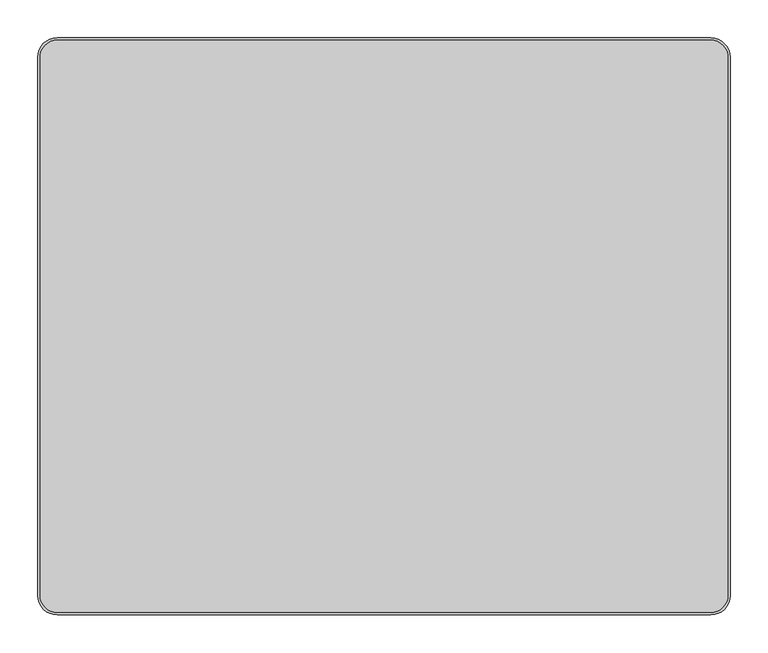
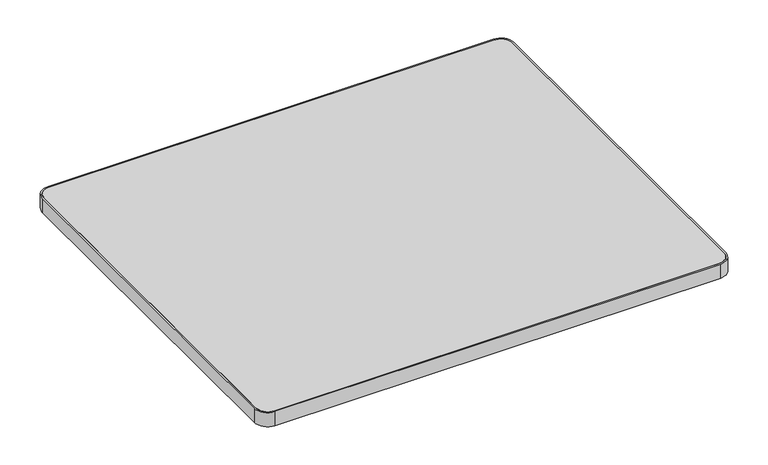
"""IFC4 building model written with IfcOpenShell, lengths in millimetres: furniture geometry, Steelcase - Groupwork - Table - Top - Rectangular : 30D x 36W - HPL."""

import ifcopenshell
import ifcopenshell.guid

model = None  # the IFC model being written
_history = None  # IfcOwnerHistory: only IFC2X3 demands one
_inside = {}  # id of a spatial element -> (the spatial element, [elements in it])
_under = {}  # id of a project, library or spatial element -> (it, [spatial elements below it])
_declared = {}  # id of a project -> (the project, [libraries it declares])
_typed = {}  # id of a type object -> (the type object, [elements of that type])
_made_of = {}  # id of a material, layer set ... -> (it, [elements and type objects made of it])


def new_model(schema):
    """Start an empty IFC model of exactly this schema.

    Asked for "IFC4X3", IfcOpenShell would pick the latest addendum, in which some entities
    have other attributes; the version numbers below select the first issue.
    IFC2X3 requires an IfcOwnerHistory on every rooted entity: one is made here for all.
    """
    global model, _history
    if schema == "IFC4X3":
        model = ifcopenshell.file(schema_version=(4, 3, 0, 0))
    else:
        model = ifcopenshell.file(schema=schema)
    _inside.clear()
    _under.clear()
    _declared.clear()
    _typed.clear()
    _made_of.clear()
    _history = None
    if model.schema == "IFC2X3":
        org = make("IfcOrganization", Name="unknown")
        user = make(
            "IfcPersonAndOrganization",
            ThePerson=make("IfcPerson", FamilyName="unknown"),
            TheOrganization=org,
        )
        app = make(
            "IfcApplication",
            ApplicationDeveloper=org,
            Version="unknown",
            ApplicationFullName="unknown",
            ApplicationIdentifier="unknown",
        )
        _history = make(
            "IfcOwnerHistory",
            OwningUser=user,
            OwningApplication=app,
            ChangeAction="ADDED",
            CreationDate=0,
        )
    return model


def make(cls, **values):
    """One entity of the class cls with the attributes given. An attribute that is None is left unset."""
    return model.create_entity(
        cls, **{name: value for name, value in values.items() if value is not None}
    )


def rooted(cls, **values):
    """An entity with a GlobalId (a new one), such as an element, a storey or a relation."""
    return make(cls, GlobalId=ifcopenshell.guid.new(), OwnerHistory=_history, **values)


def si_unit(unit_type, name, prefix=None):
    """IfcSIUnit, for example si_unit("LENGTHUNIT", "METRE", prefix="MILLI")."""
    return make("IfcSIUnit", UnitType=unit_type, Prefix=prefix, Name=name)


def assignment(units):
    """IfcUnitAssignment: the units of a project."""
    return None if units is None else make("IfcUnitAssignment", Units=units)


def point(xyz):
    """IfcCartesianPoint."""
    return None if xyz is None else make("IfcCartesianPoint", Coordinates=xyz)


def direction(xyz):
    """IfcDirection."""
    return None if xyz is None else make("IfcDirection", DirectionRatios=xyz)


def frame(location, z_axis=None, x_axis=None):
    """IfcAxis2Placement3D, a coordinate frame: its origin and axes. An axis left out is left unset."""
    return make(
        "IfcAxis2Placement3D",
        Location=point(location),
        Axis=direction(z_axis),
        RefDirection=direction(x_axis),
    )


def frame_2d(location, x_axis=None):
    """IfcAxis2Placement2D, a coordinate frame in the plane: its origin and x axis."""
    return make(
        "IfcAxis2Placement2D", Location=point(location), RefDirection=direction(x_axis)
    )


def origin():
    """The frame at (0, 0, 0) with its axes left unset."""
    return frame((0.0, 0.0, 0.0))


def place(relative_to, where):
    """IfcLocalPlacement: puts the frame where relative to a parent placement (None: the world)."""
    return make(
        "IfcLocalPlacement", PlacementRelTo=relative_to, RelativePlacement=where
    )


def context(
    kind, dimensions, precision=None, world=None, true_north=None, identifier=None
):
    """IfcGeometricRepresentationContext, for example the 3D "Model" context."""
    return make(
        "IfcGeometricRepresentationContext",
        ContextIdentifier=identifier,
        ContextType=kind,
        CoordinateSpaceDimension=dimensions,
        Precision=precision,
        WorldCoordinateSystem=world,
        TrueNorth=true_north,
    )


def project(units=None, contexts=None):
    """IfcProject with its units and contexts."""
    return rooted(
        "IfcProject",
        Name="project",
        RepresentationContexts=contexts,
        UnitsInContext=assignment(units),
    )


def spatial(cls, under=None, at=None, **own):
    """A site, building, storey or space (cls), placed at a placement, below another one or the project."""
    s = rooted(cls, ObjectPlacement=at, **own)
    if under is not None:
        _under.setdefault(under.id(), (under, []))[1].append(s)
    return s


def polyline(points):
    """IfcPolyline through the points."""
    return make("IfcPolyline", Points=[point(p) for p in points])


def circle_curve(where, radius):
    """IfcCircle in the frame where."""
    return make("IfcCircle", Position=where, Radius=radius)


def trimmed(basis, trim1, trim2, sense, master):
    """IfcTrimmedCurve: the piece of a basis curve between two trims."""
    return make(
        "IfcTrimmedCurve",
        BasisCurve=basis,
        Trim1=trim1,
        Trim2=trim2,
        SenseAgreement=sense,
        MasterRepresentation=master,
    )


def segment(curve, same_sense, transition):
    """IfcCompositeCurveSegment."""
    return make(
        "IfcCompositeCurveSegment",
        Transition=transition,
        SameSense=same_sense,
        ParentCurve=curve,
    )


def composite_curve(segments, self_intersect=None):
    """IfcCompositeCurve: segments joined end to end."""
    return make("IfcCompositeCurve", Segments=segments, SelfIntersect=self_intersect)


def outline(outer, holes=None, kind="AREA"):
    """IfcArbitraryClosedProfileDef: a profile drawn as a closed curve; with holes, ...WithVoids."""
    if holes is None:
        return make("IfcArbitraryClosedProfileDef", ProfileType=kind, OuterCurve=outer)
    return make(
        "IfcArbitraryProfileDefWithVoids",
        ProfileType=kind,
        OuterCurve=outer,
        InnerCurves=holes,
    )


def extrude(swept, where, along, depth):
    """IfcExtrudedAreaSolid: the profile swept, set in the frame where, extruded along a direction by depth."""
    return make(
        "IfcExtrudedAreaSolid",
        SweptArea=swept,
        Position=where,
        ExtrudedDirection=direction(along),
        Depth=depth,
    )


def shape(context_of_items, identifier, shape_type, items):
    """IfcShapeRepresentation: the items that make up one representation, for example the "Body"."""
    return make(
        "IfcShapeRepresentation",
        ContextOfItems=context_of_items,
        RepresentationIdentifier=identifier,
        RepresentationType=shape_type,
        Items=items,
    )


def source(mapping_origin, context_of_items, identifier, shape_type, items):
    """IfcRepresentationMap: a shape defined once, which mapped items show again and again."""
    return make(
        "IfcRepresentationMap",
        MappingOrigin=mapping_origin,
        MappedRepresentation=shape(context_of_items, identifier, shape_type, items),
    )


def transform(
    local_origin,
    x_axis=None,
    y_axis=None,
    z_axis=None,
    scale=None,
    scale2=None,
    scale3=None,
    uniform=True,
):
    """IfcCartesianTransformationOperator3D, or its non-uniform kind. x_axis, y_axis, z_axis: its Axis1, 2, 3."""
    if uniform:
        return make(
            "IfcCartesianTransformationOperator3D",
            Axis1=direction(x_axis),
            Axis2=direction(y_axis),
            LocalOrigin=point(local_origin),
            Scale=scale,
            Axis3=direction(z_axis),
        )
    return make(
        "IfcCartesianTransformationOperator3DnonUniform",
        Axis1=direction(x_axis),
        Axis2=direction(y_axis),
        LocalOrigin=point(local_origin),
        Scale=scale,
        Axis3=direction(z_axis),
        Scale2=scale2,
        Scale3=scale3,
    )


def mapped(mapping_source, mapping_target):
    """IfcMappedItem: shows the shape of a source again, moved by a transform."""
    return make(
        "IfcMappedItem", MappingSource=mapping_source, MappingTarget=mapping_target
    )


def made_of(thing, what):
    """Note that an element or type object is made of a material, layer set ...; save() writes the relation."""
    if what is not None:
        _made_of.setdefault(what.id(), (what, []))[1].append(thing)
    return thing


def element(
    cls,
    number,
    at=None,
    inside=None,
    cuts=None,
    type_object=None,
    material=None,
    context=None,
    identifier="Body",
    shape_type=None,
    held_by="IfcProductDefinitionShape",
    body=None,
    shapes=None,
    **own,
):
    """One element of the class cls, such as IfcWall. Its Tag is "e" and its number.

    at: its placement. inside: the storey or other place that contains it. cuts: it is an
    opening in that element (IfcRelVoidsElement). A single representation is given by context,
    identifier, shape_type and body (its items); several are given by shapes. held_by: the class
    of the entity that holds the representations. save() writes the other relations.
    """
    e = rooted(cls, Tag="e%d" % number, ObjectPlacement=at, **own)
    if body is not None:
        shapes = [shape(context, identifier, shape_type, body)]
    if shapes is not None:
        e.Representation = make(held_by, Representations=shapes)
    if inside is not None:
        _inside.setdefault(inside.id(), (inside, []))[1].append(e)
    if cuts is not None:
        rooted(
            "IfcRelVoidsElement", RelatingBuildingElement=cuts, RelatedOpeningElement=e
        )
    if type_object is not None:
        _typed.setdefault(type_object.id(), (type_object, []))[1].append(e)
    return made_of(e, material)


def aggregate(whole, parts):
    """IfcRelAggregates: a whole, such as a stair, and the parts it consists of."""
    return rooted("IfcRelAggregates", RelatingObject=whole, RelatedObjects=parts)


def save(model, path):
    """Write the relations noted so far, then the file.

    IfcRelAggregates (storeys below a building ...), IfcRelContainedInSpatialStructure (elements
    in a storey), IfcRelDefinesByType, IfcRelAssociatesMaterial and IfcRelDeclares: one each for
    every whole, place, type object, material and project.
    """
    for whole, parts in _under.values():
        aggregate(whole, parts)
    for where, things in _inside.values():
        rooted(
            "IfcRelContainedInSpatialStructure",
            RelatedElements=things,
            RelatingStructure=where,
        )
    for kind, things in _typed.values():
        rooted("IfcRelDefinesByType", RelatedObjects=things, RelatingType=kind)
    for what, things in _made_of.values():
        rooted("IfcRelAssociatesMaterial", RelatedObjects=things, RelatingMaterial=what)
    for by, libraries in _declared.values():
        rooted("IfcRelDeclares", RelatingContext=by, RelatedDefinitions=libraries)
    model.write(path)


def furniture_cd082a74(model_context):
    return source(origin(), model_context, "Body", "SweptSolid", [
        extrude(outline(composite_curve([segment(polyline([(-459.74, 378.0), (402.94, 378.0)]), True, "CONTINUOUS"), segment(trimmed(circle_curve(frame_2d((402.94, 355.14)), 22.86), [point((402.94, 378.0))], [point((425.8, 355.14))], False, "CARTESIAN"), True, "CONTINUOUS"), segment(polyline([(425.8, 355.14), (425.8, -355.14)]), True, "CONTINUOUS"), segment(trimmed(circle_curve(frame_2d((402.94, -355.14)), 22.86), [point((425.8, -355.14))], [point((402.94, -378.0))], False, "CARTESIAN"), True, "CONTINUOUS"), segment(polyline([(402.94, -378.0), (-459.74, -378.0)]), True, "CONTINUOUS"), segment(trimmed(circle_curve(frame_2d((-459.74, -355.14)), 22.86), [point((-459.74, -378.0))], [point((-482.6, -355.14))], False, "CARTESIAN"), True, "CONTINUOUS"), segment(polyline([(-482.6, -355.14), (-482.6, 355.14)]), True, "CONTINUOUS"), segment(trimmed(circle_curve(frame_2d((-459.74, 355.14)), 22.86), [point((-482.6, 355.14))], [point((-459.74, 378.0))], False, "CARTESIAN"), True, "CONTINUOUS")], self_intersect=False)), frame((0.0, 0.0, 694.944), z_axis=(0.0, 0.0, 1.0), x_axis=(1.0, 0.0, 0.0)), (0.0, 0.0, 1.0), 28.956),
        extrude(outline(composite_curve([segment(trimmed(circle_curve(frame_2d((403.3385373, 355.5385373)), 25.4614627), [point((403.3385373, 381.0))], [point((428.8, 355.5385373))], False, "CARTESIAN"), True, "CONTINUOUS"), segment(polyline([(428.8, 355.5385373), (428.8, -355.6211297)]), True, "CONTINUOUS"), segment(trimmed(circle_curve(frame_2d((403.4211297, -355.6211297)), 25.3788703), [point((428.8, -355.6211297))], [point((403.4211297, -381.0))], False, "CARTESIAN"), True, "CONTINUOUS"), segment(polyline([(403.4211297, -381.0), (-460.2, -381.0)]), True, "CONTINUOUS"), segment(trimmed(circle_curve(frame_2d((-460.2, -355.6)), 25.4), [point((-460.2, -381.0))], [point((-485.6, -355.6))], False, "CARTESIAN"), True, "CONTINUOUS"), segment(polyline([(-485.6, -355.6), (-485.6, 355.6)]), True, "CONTINUOUS"), segment(trimmed(circle_curve(frame_2d((-460.2, 355.6)), 25.4), [point((-485.6, 355.6))], [point((-460.2, 381.0))], False, "CARTESIAN"), True, "CONTINUOUS"), segment(polyline([(-460.2, 381.0), (403.3385373, 381.0)]), True, "CONTINUOUS")], self_intersect=False), holes=[composite_curve([segment(polyline([(403.0064662, 378.0), (-459.74, 378.0)]), True, "CONTINUOUS"), segment(trimmed(circle_curve(frame_2d((-459.74, 355.14)), 22.86), [point((-459.74, 378.0))], [point((-482.6, 355.14))], True, "CARTESIAN"), True, "CONTINUOUS"), segment(polyline([(-482.6, 355.14), (-482.6, -355.14)]), True, "CONTINUOUS"), segment(trimmed(circle_curve(frame_2d((-459.74, -355.14)), 22.86), [point((-482.6, -355.14))], [point((-459.74, -378.0))], True, "CARTESIAN"), True, "CONTINUOUS"), segment(polyline([(-459.74, -378.0), (402.773488, -378.0)]), True, "CONTINUOUS"), segment(trimmed(circle_curve(frame_2d((402.773488, -354.973488)), 23.026512), [point((402.773488, -378.0))], [point((425.8, -354.973488))], True, "CARTESIAN"), True, "CONTINUOUS"), segment(polyline([(425.8, -354.973488), (425.8, 355.2064662)]), True, "CONTINUOUS"), segment(trimmed(circle_curve(frame_2d((403.0064662, 355.2064662)), 22.7935338), [point((425.8, 355.2064662))], [point((403.0064662, 378.0))], True, "CARTESIAN"), True, "CONTINUOUS")], self_intersect=False)]), frame((0.0, 0.0, 694.944), z_axis=(0.0, 0.0, 1.0), x_axis=(1.0, 0.0, 0.0)), (0.0, 0.0, 1.0), 28.956),
    ])


if __name__ == "__main__":
    model = new_model("IFC4")
    model_context = context("Model", 3, world=origin())
    ifc_project = project(units=[si_unit("LENGTHUNIT", "METRE", prefix="MILLI")], contexts=[model_context])
    site = spatial("IfcSite", under=ifc_project)
    building = spatial("IfcBuilding", under=site)
    placement = place(None, origin())
    furniture_shape = furniture_cd082a74(model_context)
    element("IfcFurniture", 1, ObjectType="Steelcase - Groupwork - Table - Top - Rectangular : 30D x 36W - HPL", at=placement, inside=building, context=model_context, shape_type="MappedRepresentation", body=[
        mapped(furniture_shape, transform((0.0, 0.0, 0.0), x_axis=(1.0, 0.0, 0.0), y_axis=(0.0, 1.0, 0.0), z_axis=(0.0, 0.0, 1.0))),
    ])
    save(model, "model.ifc")
